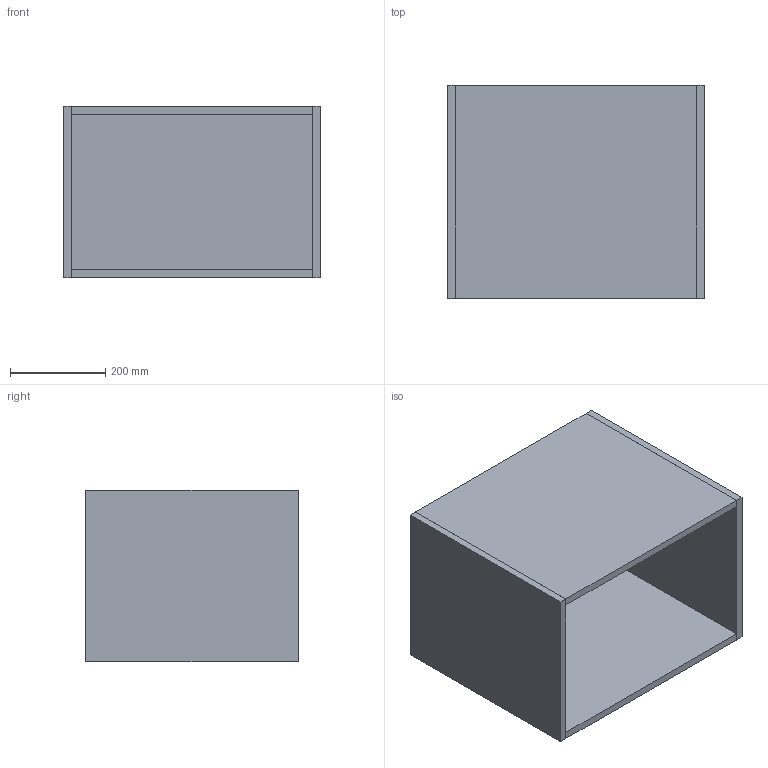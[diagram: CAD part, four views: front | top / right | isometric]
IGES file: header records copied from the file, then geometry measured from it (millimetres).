
Start section: Data from Parasolid IGES Translator 19.0.9, Copyright(c) 2006 Siemens PL M Software. All Rights Reserved.
Global section: file name: noorth-SI-H 36 D 47 W 54_8361.igs; native system: By Siemens PLM Incorporated; preprocessor: XPlus GENERIC/IGES 19.0.9; author: Noname; organization: Noname; date: 20200601.094013; units: metre
Bounding box: 540.01 x 448.06 x 360 mm (x, y, z)
Volume: 12921721.7 mm3; surface area: 2006609.5 mm2
Topology: 5 solids, 5 shells, 30 faces, 60 edges, 40 vertices
Faces by surface type: plane 30
